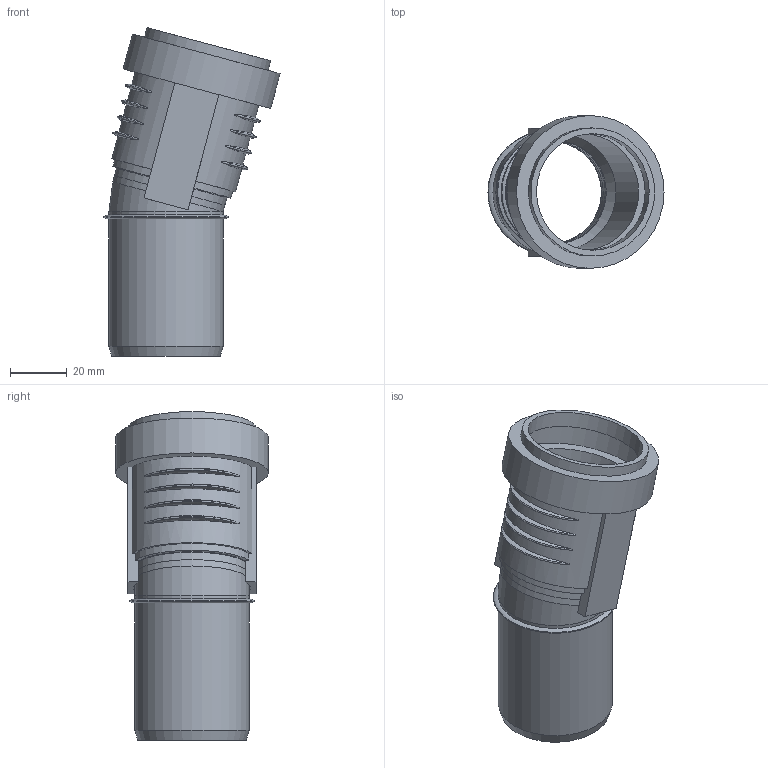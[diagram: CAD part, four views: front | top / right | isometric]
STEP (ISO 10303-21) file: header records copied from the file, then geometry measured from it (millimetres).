
FILE_DESCRIPTION(/* description */ (''),/* implementation_level */ '2;1');
FILE_NAME(/* name */ 'Z:\Geberit\Export\NewStep\390120.stp',/* time_stamp */ '2014-04-02T08:08:56+02:00',/* author */ ('ML'),/* organization */ (''),/* preprocessor_version */ 'ST-DEVELOPER v15.2',/* originating_system */ 'Autodesk Inventor 2014',/* authorisation */ '');
FILE_SCHEMA (('AUTOMOTIVE_DESIGN { 1 0 10303 214 3 1 1 }'));
Length unit declared in the file: millimetre
Products named in the file (3): 861316; 861400; 390120
Bounding box: 61.9 x 53.7 x 115.53 mm (x, y, z)
Volume: 34390.5 mm3; surface area: 35054.6 mm2
Topology: 2 solids, 2 shells, 68 faces, 162 edges, 109 vertices
Faces by surface type: torus 28, plane 19, cylinder 18, cone 2, bspline 1
Full cylindrical faces by diameter (mm): 36.15 x3, 40.15 x4, 41 x2, 45 x1, 49.7 x1, 53.7 x1
Entity records: 2598 total; most frequent: CARTESIAN_POINT 1022, DIRECTION 290, ORIENTED_EDGE 278, EDGE_CURVE 139, AXIS2_PLACEMENT_3D 127, VERTEX_POINT 106, EDGE_LOOP 103, STYLED_ITEM 70
